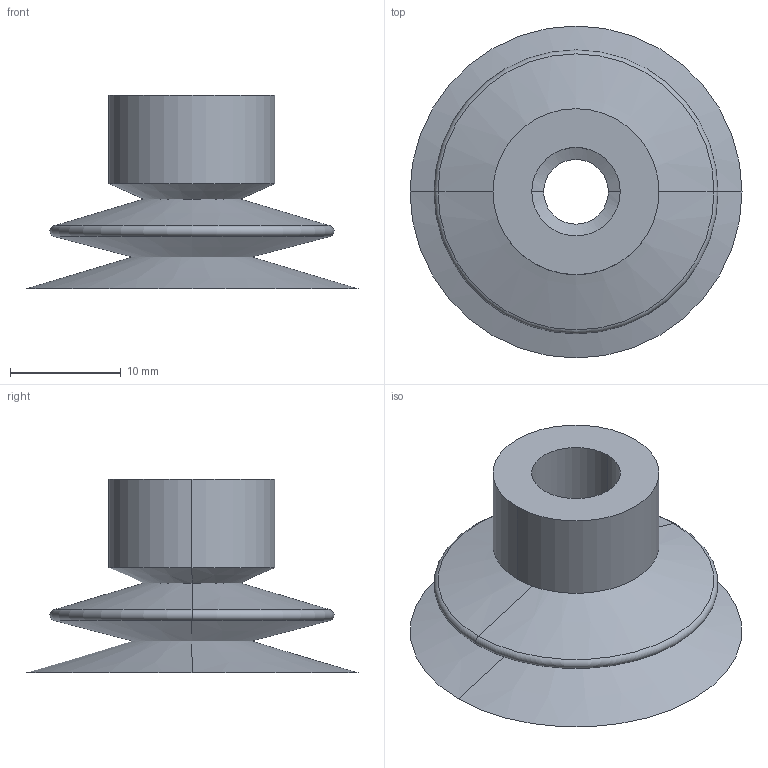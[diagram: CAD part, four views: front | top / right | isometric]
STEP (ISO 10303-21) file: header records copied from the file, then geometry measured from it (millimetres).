
FILE_DESCRIPTION (( 'STEP AP214' ), '1' );
FILE_NAME ('VSH2-M35.STEP', '2019-11-14T00:43:27', ( '微软用户' ), ( '微软中国' ), 'SwSTEP 2.0', 'SolidWorks 2016', '' );
FILE_SCHEMA (( 'AUTOMOTIVE_DESIGN' ));
Length unit declared in the file: millimetre
Products named in the file (1): VSH2-M35
Bounding box: 30 x 30 x 17.5 mm (x, y, z)
Volume: 1681.5 mm3; surface area: 4311.5 mm2
Topology: 1 solids, 1 shells, 30 faces, 60 edges, 34 vertices
Faces by surface type: cone 16, cylinder 8, plane 4, torus 2
Entity records: 814 total; most frequent: DIRECTION 158, CARTESIAN_POINT 125, ORIENTED_EDGE 120, AXIS2_PLACEMENT_3D 67, EDGE_CURVE 60, CIRCLE 36, EDGE_LOOP 34, VERTEX_POINT 34
